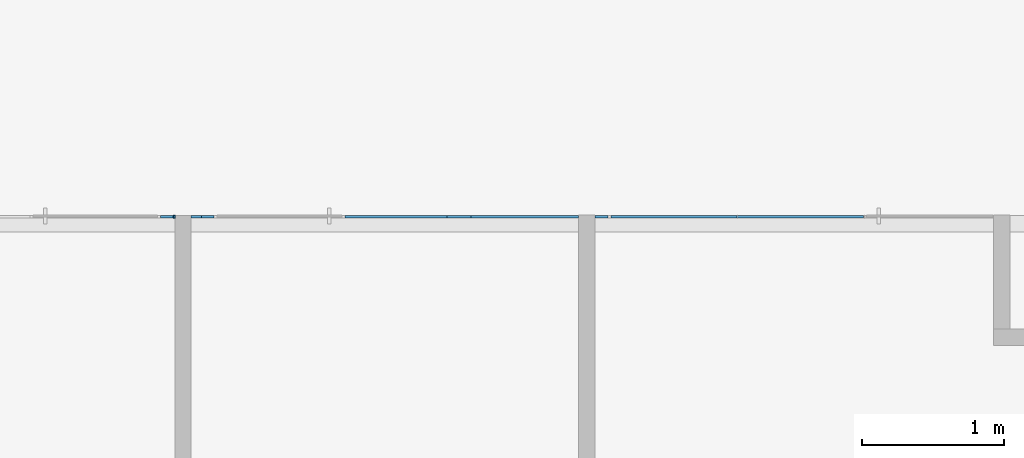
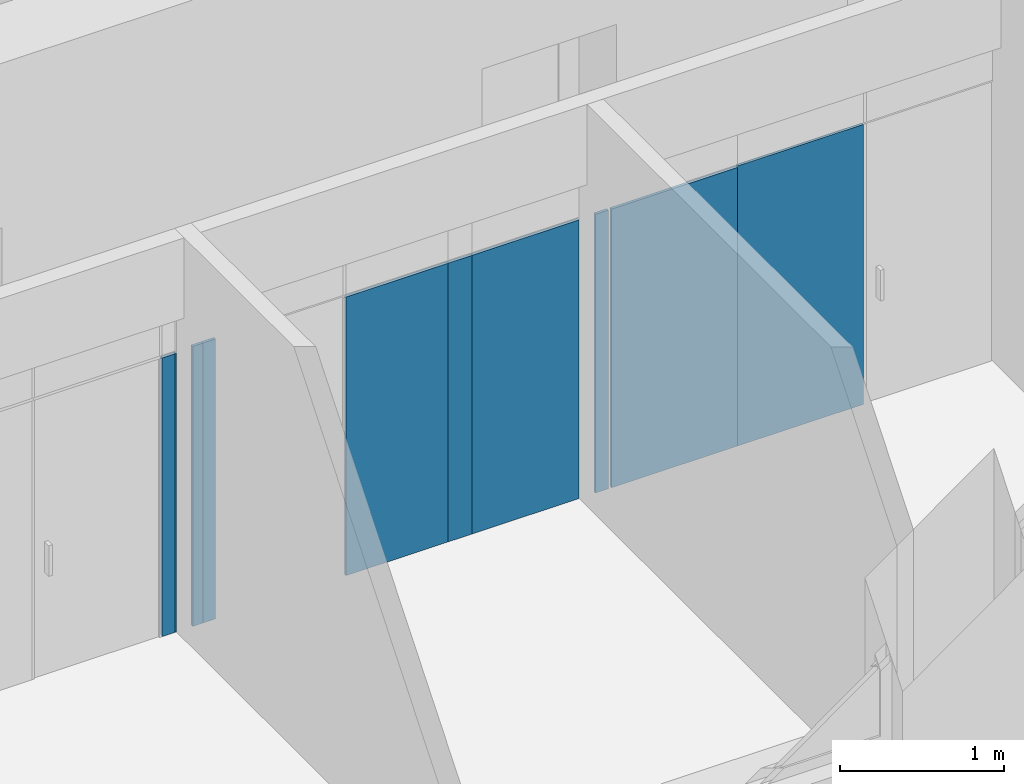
# One storey, part 28 of 73: 10 plates, 3 elements without a shape of their own.
"""IFC2X3 building model written with IfcOpenShell, lengths in millimetres."""

from ifc_helpers import new_model, entity, si_unit, converted_unit, derived_unit, direction, frame, origin, origin_2d_with_axis, place, context, subcontext, project, spatial, polyline, rectangle, outline, extrude, source, transform, mapped, material, layer, layer_set, layer_usage, type_object, type_shapes, element, aggregate, save


model = new_model("IFC2X3")

# Units and contexts
model_context = context("Model", 3, precision=0.01, world=origin(), true_north=direction((6.12303176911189e-17, 1.0)))
body_context = subcontext(model_context, "Body", "Model", "MODEL_VIEW")
ifc_project = project(units=[si_unit("LENGTHUNIT", "METRE", prefix="MILLI"), si_unit("AREAUNIT", "SQUARE_METRE"), si_unit("VOLUMEUNIT", "CUBIC_METRE"), converted_unit("PLANEANGLEUNIT", "DEGREE", entity("IfcRatioMeasure", 0.0174532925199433), si_unit("PLANEANGLEUNIT", "RADIAN"), dimensions=[0, 0, 0, 0, 0, 0, 0]), si_unit("MASSUNIT", "GRAM", prefix="KILO"), derived_unit("MASSDENSITYUNIT", [(si_unit("MASSUNIT", "GRAM", prefix="KILO"), 1), (si_unit("LENGTHUNIT", "METRE"), -3)]), si_unit("TIMEUNIT", "SECOND"), si_unit("FREQUENCYUNIT", "HERTZ"), si_unit("THERMODYNAMICTEMPERATUREUNIT", "DEGREE_CELSIUS"), derived_unit("THERMALTRANSMITTANCEUNIT", [(si_unit("MASSUNIT", "GRAM", prefix="KILO"), 1), (si_unit("THERMODYNAMICTEMPERATUREUNIT", "KELVIN"), -1), (si_unit("TIMEUNIT", "SECOND"), -3)]), derived_unit("VOLUMETRICFLOWRATEUNIT", [(si_unit("LENGTHUNIT", "METRE"), 3), (si_unit("TIMEUNIT", "SECOND"), -1)]), si_unit("ELECTRICCURRENTUNIT", "AMPERE"), si_unit("ELECTRICVOLTAGEUNIT", "VOLT"), si_unit("POWERUNIT", "WATT"), si_unit("FORCEUNIT", "NEWTON", prefix="KILO"), si_unit("ILLUMINANCEUNIT", "LUX"), si_unit("LUMINOUSFLUXUNIT", "LUMEN"), si_unit("LUMINOUSINTENSITYUNIT", "CANDELA"), derived_unit("USERDEFINED", [(si_unit("MASSUNIT", "GRAM", prefix="KILO"), -1), (si_unit("LENGTHUNIT", "METRE"), -2), (si_unit("TIMEUNIT", "SECOND"), 3), (si_unit("LUMINOUSFLUXUNIT", "LUMEN"), 1)]), derived_unit("LINEARVELOCITYUNIT", [(si_unit("LENGTHUNIT", "METRE"), 1), (si_unit("TIMEUNIT", "SECOND"), -1)]), si_unit("PRESSUREUNIT", "PASCAL"), derived_unit("USERDEFINED", [(si_unit("LENGTHUNIT", "METRE"), -2), (si_unit("MASSUNIT", "GRAM", prefix="KILO"), 1), (si_unit("TIMEUNIT", "SECOND"), -2)])], contexts=[model_context])

# Site, building, storey
site_placement = place(None, frame((-151.875543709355, 2715.0, 0.0)))
site = spatial("IfcSite", under=ifc_project, at=site_placement, Name="Surface", CompositionType="ELEMENT")
building_placement = place(site_placement, origin())
building = spatial("IfcBuilding", under=site, at=building_placement, CompositionType="ELEMENT")
storey_placement = place(building_placement, frame((0.0, 0.0, 6730.43000000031)))
storey = spatial("IfcBuildingStorey", under=building, at=storey_placement, Name="3 korrus", CompositionType="ELEMENT", Elevation=6730.43000000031)

# Curtain wall, plates
curtain_wall_type_1 = type_object("IfcCurtainWallType", Name="Curtain Wall:Klaassein KLS-19", PredefinedType="NOTDEFINED")
curtain_wall_1_placement = place(storey_placement, frame((0.0, 0.0, -6730.43000000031)))
curtain_wall_1 = element("IfcCurtainWall", 1, at=curtain_wall_1_placement, inside=storey, type_object=curtain_wall_type_1, Name="Curtain Wall:Klaassein KLS-19", ObjectType="Curtain Wall:Klaassein KLS-19")
ifc_material = material(Name="<Unnamed>")
ifc_layer = layer(ifc_material, 20.0)
ifc_layer_set = layer_set([ifc_layer], Name="Curtain Wall:Klaassein KLS-01")
ifc_layer_usage_1 = layer_usage(ifc_layer_set, "AXIS3", "POSITIVE", 0.0)
plate_type_1 = type_object("IfcPlateType", Name="Glazed", PredefinedType="CURTAIN_PANEL", material=ifc_layer_set)
shared_shape_1 = source(origin(), body_context, "Body", "SweptSolid", [
    extrude(outline(polyline([(-1191.42857142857, -635.285714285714), (898.571428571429, -635.285714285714), (898.571428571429, 253.714285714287), (888.571428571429, 253.714285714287), (888.571428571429, 254.714285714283), (-1191.42857142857, 254.714285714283), (-1191.42857142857, 253.714285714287), (-1191.42857142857, -635.285714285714)])), frame((190.285714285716, -10.0, 1191.42857142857), z_axis=(0.0, 1.0, 0.0), x_axis=(0.0, 0.0, 1.0)), (0.0, 0.0, 1.0), 20.0),
])
type_shapes(plate_type_1, [shared_shape_1])
plate_1_placement = place(curtain_wall_1_placement, frame((19807.0647261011, 4355.04493399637, 6730.43000000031), z_axis=(0.0, 0.0, 1.0), x_axis=(-1.0, 0.0, 0.0)))
plate_1 = element("IfcPlate", 2, at=plate_1_placement, type_object=plate_type_1, material=ifc_layer_usage_1, Name="System Panel:Glazed", ObjectType="Glazed", context=body_context, shape_type="MappedRepresentation", body=[
    mapped(shared_shape_1, transform((0.0, 0.0, 0.0), scale=1.0)),
])
ifc_layer_usage_2 = layer_usage(ifc_layer_set, "AXIS3", "POSITIVE", 0.0)
plate_type_2 = type_object("IfcPlateType", Name="Glazed", PredefinedType="CURTAIN_PANEL", material=ifc_layer_set)
shared_shape_2 = source(origin(), body_context, "Body", "SweptSolid", [
    extrude(rectangle(XDim=20.0, YDim=889.000000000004, at=origin_2d_with_axis()), frame((0.0, 0.0, 0.0), z_axis=(0.0, 0.0, 1.0), x_axis=(0.0, 1.0, 0.0)), (0.0, 0.0, 1.0), 2080.0),
])
type_shapes(plate_type_2, [shared_shape_2])
plate_2_placement = place(curtain_wall_1_placement, frame((18917.5647261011, 4355.04493399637, 6730.43000000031), z_axis=(0.0, 0.0, 1.0), x_axis=(-1.0, 0.0, 0.0)))
plate_2 = element("IfcPlate", 3, at=plate_2_placement, type_object=plate_type_2, material=ifc_layer_usage_2, Name="System Panel:Glazed", ObjectType="Glazed", context=body_context, shape_type="MappedRepresentation", body=[
    mapped(shared_shape_2, transform((0.0, 0.0, 0.0), scale=1.0)),
])
ifc_layer_usage_3 = layer_usage(ifc_layer_set, "AXIS3", "POSITIVE", 0.0)
plate_type_3 = type_object("IfcPlateType", Name="Glazed", PredefinedType="CURTAIN_PANEL", material=ifc_layer_set)
shared_shape_3 = source(origin(), body_context, "Body", "SweptSolid", [
    extrude(rectangle(XDim=20.0, YDim=91.9999996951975, at=origin_2d_with_axis()), frame((0.0, 0.0, 0.0), z_axis=(0.0, 0.0, 1.0), x_axis=(0.0, 1.0, 0.0)), (0.0, 0.0, 1.0), 2080.0),
])
type_shapes(plate_type_3, [shared_shape_3])
plate_3_placement = place(curtain_wall_1_placement, frame((18407.0647262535, 4355.04493399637, 6730.43000000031), z_axis=(0.0, 0.0, 1.0), x_axis=(-1.0, 0.0, 0.0)))
plate_3 = element("IfcPlate", 4, at=plate_3_placement, type_object=plate_type_3, material=ifc_layer_usage_3, Name="System Panel:Glazed", ObjectType="Glazed", context=body_context, shape_type="MappedRepresentation", body=[
    mapped(shared_shape_3, transform((0.0, 0.0, 0.0), scale=1.0)),
])
aggregate(curtain_wall_1, [plate_1, plate_2, plate_3])

curtain_wall_type_2 = type_object("IfcCurtainWallType", Name="Curtain Wall:Klaassein KLS-18", PredefinedType="NOTDEFINED")
curtain_wall_2_placement = place(storey_placement, frame((0.0, 0.0, -6730.43000000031)))
curtain_wall_2 = element("IfcCurtainWall", 5, at=curtain_wall_2_placement, inside=storey, type_object=curtain_wall_type_2, Name="Curtain Wall:Klaassein KLS-18", ObjectType="Curtain Wall:Klaassein KLS-18")
ifc_layer_usage_4 = layer_usage(ifc_layer_set, "AXIS3", "POSITIVE", 0.0)
plate_type_4 = type_object("IfcPlateType", Name="Glazed", PredefinedType="CURTAIN_PANEL", material=ifc_layer_set)
shared_shape_4 = source(origin(), body_context, "Body", "SweptSolid", [
    extrude(rectangle(XDim=20.0, YDim=71.8553832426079, at=origin_2d_with_axis()), frame((0.0, 0.0, 0.0), z_axis=(0.0, 0.0, 1.0), x_axis=(0.0, 1.0, 0.0)), (0.0, 0.0, 1.0), 2090.0),
])
type_shapes(plate_type_4, [shared_shape_4])
plate_4_placement = place(curtain_wall_2_placement, frame((15553.4924180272, 4355.04493399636, 6730.43000000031)))
plate_4 = element("IfcPlate", 6, at=plate_4_placement, type_object=plate_type_4, material=ifc_layer_usage_4, Name="System Panel:Glazed", ObjectType="Glazed", context=body_context, shape_type="MappedRepresentation", body=[
    mapped(shared_shape_4, transform((0.0, 0.0, 0.0), scale=1.0)),
])
ifc_layer_usage_5 = layer_usage(ifc_layer_set, "AXIS3", "POSITIVE", 0.0)
plate_type_5 = type_object("IfcPlateType", Name="Glazed", PredefinedType="CURTAIN_PANEL", material=ifc_layer_set)
shared_shape_5 = source(origin(), body_context, "Body", "SweptSolid", [
    extrude(rectangle(XDim=20.0, YDim=89.999999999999, at=origin_2d_with_axis()), frame((0.0, 0.0, 0.0), z_axis=(0.0, 0.0, 1.0), x_axis=(0.0, 1.0, 0.0)), (0.0, 0.0, 1.0), 2090.0),
])
type_shapes(plate_type_5, [shared_shape_5])
plate_5_placement = place(curtain_wall_2_placement, frame((15634.4201096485, 4355.04493399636, 6730.43000000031)))
plate_5 = element("IfcPlate", 7, at=plate_5_placement, type_object=plate_type_5, material=ifc_layer_usage_5, Name="System Panel:Glazed", ObjectType="Glazed", context=body_context, shape_type="MappedRepresentation", body=[
    mapped(shared_shape_5, transform((0.0, 0.0, 0.0), scale=1.0)),
])
ifc_layer_usage_6 = layer_usage(ifc_layer_set, "AXIS3", "POSITIVE", 0.0)
plate_type_6 = type_object("IfcPlateType", Name="Glazed", PredefinedType="CURTAIN_PANEL", material=ifc_layer_set)
shared_shape_6 = source(origin(), body_context, "Body", "SweptSolid", [
    extrude(rectangle(XDim=20.0, YDim=718.144617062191, at=origin_2d_with_axis()), frame((0.0, 0.0, 0.0), z_axis=(0.0, 0.0, 1.0), x_axis=(0.0, 1.0, 0.0)), (0.0, 0.0, 1.0), 2080.0),
])
type_shapes(plate_type_6, [shared_shape_6])
plate_6_placement = place(curtain_wall_2_placement, frame((16958.4924181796, 4355.04493399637, 6730.43000000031)))
plate_6 = element("IfcPlate", 8, at=plate_6_placement, type_object=plate_type_6, material=ifc_layer_usage_6, Name="System Panel:Glazed", ObjectType="Glazed", context=body_context, shape_type="MappedRepresentation", body=[
    mapped(shared_shape_6, transform((0.0, 0.0, 0.0), scale=1.0)),
])
ifc_layer_usage_7 = layer_usage(ifc_layer_set, "AXIS3", "POSITIVE", 0.0)
plate_type_7 = type_object("IfcPlateType", Name="Glazed", PredefinedType="CURTAIN_PANEL", material=ifc_layer_set)
shared_shape_7 = source(origin(), body_context, "Body", "SweptSolid", [
    extrude(rectangle(XDim=20.0, YDim=171.855382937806, at=origin_2d_with_axis()), frame((0.0, 0.0, 0.0), z_axis=(0.0, 0.0, 1.0), x_axis=(0.0, 1.0, 0.0)), (0.0, 0.0, 1.0), 2080.0),
])
type_shapes(plate_type_7, [shared_shape_7])
plate_7_placement = place(curtain_wall_2_placement, frame((17403.4924181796, 4355.04493399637, 6730.43000000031)))
plate_7 = element("IfcPlate", 9, at=plate_7_placement, type_object=plate_type_7, material=ifc_layer_usage_7, Name="System Panel:Glazed", ObjectType="Glazed", context=body_context, shape_type="MappedRepresentation", body=[
    mapped(shared_shape_7, transform((0.0, 0.0, 0.0), scale=1.0)),
])
ifc_layer_usage_8 = layer_usage(ifc_layer_set, "AXIS3", "POSITIVE", 0.0)
plate_type_8 = type_object("IfcPlateType", Name="Glazed", PredefinedType="CURTAIN_PANEL", material=ifc_layer_set)
shared_shape_8 = source(origin(), body_context, "Body", "SweptSolid", [
    extrude(rectangle(XDim=20.0, YDim=755.644616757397, at=origin_2d_with_axis()), frame((0.0, 0.0, 0.0), z_axis=(0.0, 0.0, 1.0), x_axis=(0.0, 1.0, 0.0)), (0.0, 0.0, 1.0), 2080.0),
])
type_shapes(plate_type_8, [shared_shape_8])
plate_8_placement = place(curtain_wall_2_placement, frame((17867.2424180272, 4355.04493399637, 6730.43000000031)))
plate_8 = element("IfcPlate", 10, at=plate_8_placement, type_object=plate_type_8, material=ifc_layer_usage_8, Name="System Panel:Glazed", ObjectType="Glazed", context=body_context, shape_type="MappedRepresentation", body=[
    mapped(shared_shape_8, transform((0.0, 0.0, 0.0), scale=1.0)),
])
aggregate(curtain_wall_2, [plate_4, plate_5, plate_6, plate_7, plate_8])

curtain_wall_type_3 = type_object("IfcCurtainWallType", Name="Curtain Wall:Klaassein KLS-17", PredefinedType="NOTDEFINED")
curtain_wall_3_placement = place(storey_placement, frame((0.0, 0.0, -6730.43000000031)))
curtain_wall_3 = element("IfcCurtainWall", 11, at=curtain_wall_3_placement, inside=storey, type_object=curtain_wall_type_3, Name="Curtain Wall:Klaassein KLS-17", ObjectType="Curtain Wall:Klaassein KLS-17")
ifc_layer_usage_9 = layer_usage(ifc_layer_set, "AXIS3", "POSITIVE", 0.0)
plate_type_9 = type_object("IfcPlateType", Name="Glazed", PredefinedType="CURTAIN_PANEL", material=ifc_layer_set)
shared_shape_9 = source(origin(), body_context, "Body", "SweptSolid", [
    extrude(rectangle(XDim=20.0, YDim=89.999999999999, at=origin_2d_with_axis()), frame((0.0, 0.0, 0.0), z_axis=(0.0, 0.0, 1.0), x_axis=(0.0, 1.0, 0.0)), (0.0, 0.0, 1.0), 2080.0),
])
type_shapes(plate_type_9, [shared_shape_9])
plate_9_placement = place(curtain_wall_3_placement, frame((15346.5647264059, 4355.04493399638, 6730.43000000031)))
plate_9 = element("IfcPlate", 12, at=plate_9_placement, type_object=plate_type_9, material=ifc_layer_usage_9, Name="System Panel:Glazed", ObjectType="Glazed", context=body_context, shape_type="MappedRepresentation", body=[
    mapped(shared_shape_9, transform((0.0, 0.0, 0.0), scale=1.0)),
])
ifc_layer_usage_10 = layer_usage(ifc_layer_set, "AXIS3", "POSITIVE", 0.0)
plate_type_10 = type_object("IfcPlateType", Name="Glazed", PredefinedType="CURTAIN_PANEL", material=ifc_layer_set)
shared_shape_10 = source(origin(), body_context, "Body", "SweptSolid", [
    extrude(rectangle(XDim=20.0, YDim=11.9999999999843, at=origin_2d_with_axis()), frame((0.0, 0.0, 0.0), z_axis=(0.0, 0.0, 1.0), x_axis=(0.0, 1.0, 0.0)), (0.0, 0.0, 1.0), 2080.0),
])
type_shapes(plate_type_10, [shared_shape_10])
plate_10_placement = place(curtain_wall_3_placement, frame((15397.5647264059, 4355.04493399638, 6730.43000000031)))
plate_10 = element("IfcPlate", 13, at=plate_10_placement, type_object=plate_type_10, material=ifc_layer_usage_10, Name="System Panel:Glazed", ObjectType="Glazed", context=body_context, shape_type="MappedRepresentation", body=[
    mapped(shared_shape_10, transform((0.0, 0.0, 0.0), scale=1.0)),
])
aggregate(curtain_wall_3, [plate_9, plate_10])

save(model, "model.ifc")
